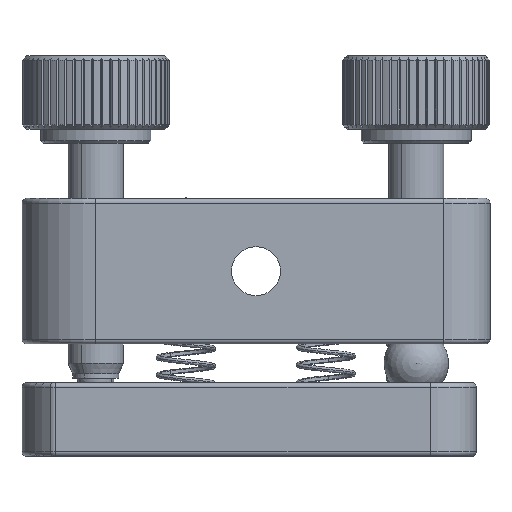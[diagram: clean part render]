
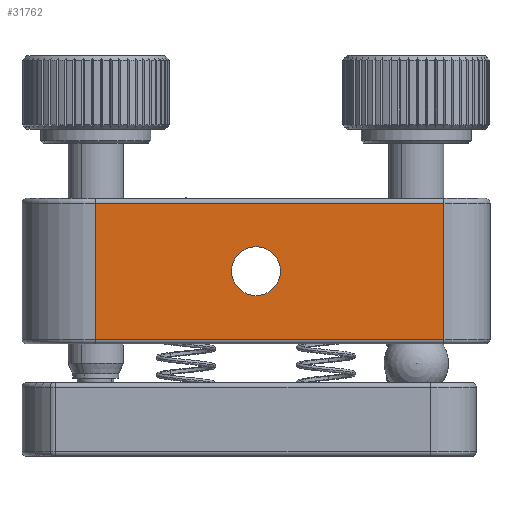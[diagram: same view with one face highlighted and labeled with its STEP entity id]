
A CAD part, front view. The second image highlights one B-rep face of the part: STEP entity #31762.
In plain terms, the highlighted planar face has unit normal (0, -1, 0).
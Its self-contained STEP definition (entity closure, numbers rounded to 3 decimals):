
#300 = LINE ( 'NONE', #11642, #4616 ) ;
#1966 = EDGE_CURVE ( 'NONE', #25814, #26148, #16573, .T. ) ;
#2185 = CARTESIAN_POINT ( 'NONE',  ( -60.993, -30.837, 58.7 ) ) ;
#2475 = DIRECTION ( 'NONE',  ( 1., 0., 0. ) ) ;
#2760 = CARTESIAN_POINT ( 'NONE',  ( -43.593, -30.837, 53.45 ) ) ;
#3870 = CARTESIAN_POINT ( 'NONE',  ( -43.593, -30.837, 50.8 ) ) ;
#4453 = FACE_BOUND ( 'NONE', #17867, .T. ) ;
#4616 = VECTOR ( 'NONE', #22965, 1000. ) ;
#5172 = VERTEX_POINT ( 'NONE', #2760 ) ;
#5649 = CARTESIAN_POINT ( 'NONE',  ( -60.993, -30.837, 43.4 ) ) ;
#5675 = AXIS2_PLACEMENT_3D ( 'NONE', #34655, #9224, #20556 ) ;
#7974 = CIRCLE ( 'NONE', #28731, 2.65 ) ;
#8380 = LINE ( 'NONE', #19716, #34381 ) ;
#8966 = ORIENTED_EDGE ( 'NONE', *, *, #1966, .T. ) ;
#9224 = DIRECTION ( 'NONE',  ( 0., -1., 0. ) ) ;
#9345 = ORIENTED_EDGE ( 'NONE', *, *, #30443, .F. ) ;
#11030 = DIRECTION ( 'NONE',  ( 0., 0., -1. ) ) ;
#11642 = CARTESIAN_POINT ( 'NONE',  ( -23.193, -30.837, 58.7 ) ) ;
#11764 = EDGE_LOOP ( 'NONE', ( #12282, #8966, #32271, #33154 ) ) ;
#12282 = ORIENTED_EDGE ( 'NONE', *, *, #21754, .T. ) ;
#13496 = DIRECTION ( 'NONE',  ( 0., 1., 0. ) ) ;
#14765 = CARTESIAN_POINT ( 'NONE',  ( -43.593, -30.837, 48.15 ) ) ;
#16158 = EDGE_CURVE ( 'NONE', #27921, #33099, #8380, .T. ) ;
#16193 = CARTESIAN_POINT ( 'NONE',  ( -23.193, -30.837, 43.4 ) ) ;
#16284 = FACE_OUTER_BOUND ( 'NONE', #11764, .T. ) ;
#16573 = LINE ( 'NONE', #27896, #16612 ) ;
#16612 = VECTOR ( 'NONE', #2475, 1000. ) ;
#17867 = EDGE_LOOP ( 'NONE', ( #28103, #9345 ) ) ;
#18159 = CARTESIAN_POINT ( 'NONE',  ( -23.193, -30.837, 58.2 ) ) ;
#18162 = EDGE_CURVE ( 'NONE', #34832, #5172, #21690, .T. ) ;
#19716 = CARTESIAN_POINT ( 'NONE',  ( -60.993, -30.837, 58.2 ) ) ;
#20556 = DIRECTION ( 'NONE',  ( 0., 0., -1. ) ) ;
#21690 = CIRCLE ( 'NONE', #5675, 2.65 ) ;
#21754 = EDGE_CURVE ( 'NONE', #33099, #25814, #25130, .T. ) ;
#22965 = DIRECTION ( 'NONE',  ( 0., 0., -1. ) ) ;
#23722 = DIRECTION ( 'NONE',  ( 0., -1., 0. ) ) ;
#24586 = CARTESIAN_POINT ( 'NONE',  ( -60.993, -30.837, 58.2 ) ) ;
#24827 = DIRECTION ( 'NONE',  ( 0., 0., 1. ) ) ;
#25130 = LINE ( 'NONE', #36448, #27273 ) ;
#25814 = VERTEX_POINT ( 'NONE', #5649 ) ;
#26148 = VERTEX_POINT ( 'NONE', #16193 ) ;
#27273 = VECTOR ( 'NONE', #11030, 1000. ) ;
#27598 = PLANE ( 'NONE',  #31406 ) ;
#27896 = CARTESIAN_POINT ( 'NONE',  ( -60.993, -30.837, 43.4 ) ) ;
#27921 = VERTEX_POINT ( 'NONE', #18159 ) ;
#28103 = ORIENTED_EDGE ( 'NONE', *, *, #18162, .F. ) ;
#28731 = AXIS2_PLACEMENT_3D ( 'NONE', #3870, #23722, #35044 ) ;
#30443 = EDGE_CURVE ( 'NONE', #5172, #34832, #7974, .T. ) ;
#31038 = DIRECTION ( 'NONE',  ( -1., 0., 0. ) ) ;
#31406 = AXIS2_PLACEMENT_3D ( 'NONE', #2185, #13496, #24827 ) ;
#31762 = ADVANCED_FACE ( 'NONE', ( #4453, #16284 ), #27598, .F. ) ;
#32271 = ORIENTED_EDGE ( 'NONE', *, *, #35941, .F. ) ;
#33099 = VERTEX_POINT ( 'NONE', #24586 ) ;
#33154 = ORIENTED_EDGE ( 'NONE', *, *, #16158, .T. ) ;
#34381 = VECTOR ( 'NONE', #31038, 1000. ) ;
#34655 = CARTESIAN_POINT ( 'NONE',  ( -43.593, -30.837, 50.8 ) ) ;
#34832 = VERTEX_POINT ( 'NONE', #14765 ) ;
#35044 = DIRECTION ( 'NONE',  ( 0., 0., -1. ) ) ;
#35941 = EDGE_CURVE ( 'NONE', #27921, #26148, #300, .T. ) ;
#36448 = CARTESIAN_POINT ( 'NONE',  ( -60.993, -30.837, 58.7 ) ) ;
